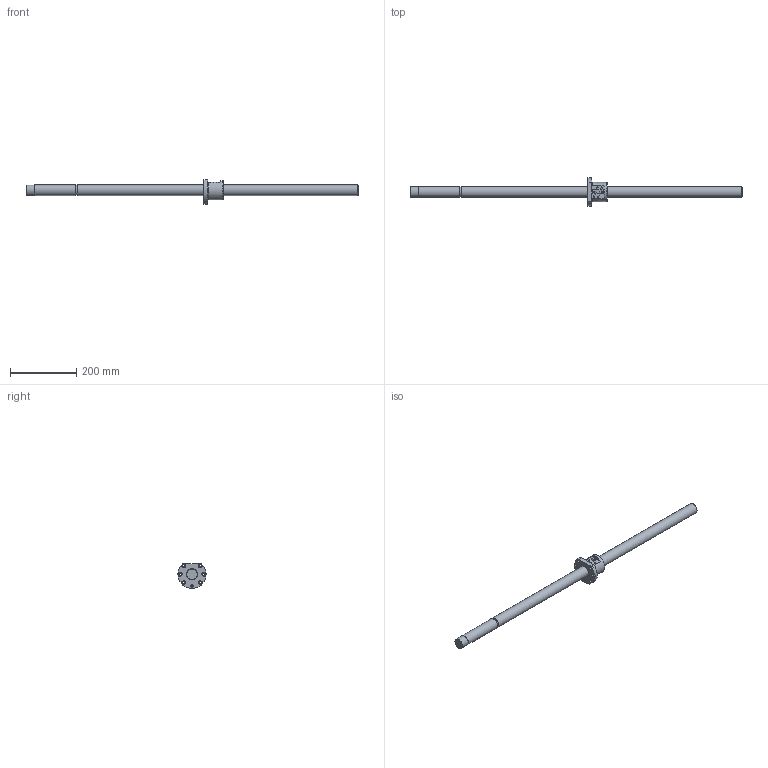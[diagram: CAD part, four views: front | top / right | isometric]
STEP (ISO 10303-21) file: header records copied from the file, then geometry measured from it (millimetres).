
FILE_DESCRIPTION((''),'2;1');
FILE_NAME('D:\製品 (図面)\カタログ用3D\ネジ関連\STEP形式\KBS(C)\KBS(C)3205-1000.stp','2010-06-02T14:23:13',('Tsuchiya'),(''),'Autodesk Inventor 10','Autodesk Inventor 10','');
FILE_SCHEMA(('AUTOMOTIVE_DESIGN { 1 0 10303 214 1 1 1 1 }'));
Length unit declared in the file: millimetre
Products named in the file (3): KBS(C)3205-1000; KBS(C)3205-10001; KBS(C)3205-10002
Assembly tree (2 placements, depth 2):
  KBS(C)3205-1000
    KBS(C)3205-10001
    KBS(C)3205-10002
Bounding box: 1000 x 84.99 x 74.5 mm (x, y, z)
Volume: 927216.8 mm3; surface area: 131801.5 mm2
Topology: 2 solids, 2 shells, 120 faces, 314 edges, 207 vertices
Faces by surface type: plane 48, cylinder 44, bspline 20, cone 4, torus 4
Full cylindrical faces by diameter (mm): 3.2 x2, 5.6 x1, 6 x1, 6.6 x6, 11 x6, 29.5 x1, 31.5 x1, 32 x3, 34 x2, 58 x1
Entity records: 3857 total; most frequent: CARTESIAN_POINT 1027, DIRECTION 546, ORIENTED_EDGE 532, EDGE_CURVE 266, AXIS2_PLACEMENT_3D 207, VERTEX_POINT 196, EDGE_LOOP 192, VECTOR 132
